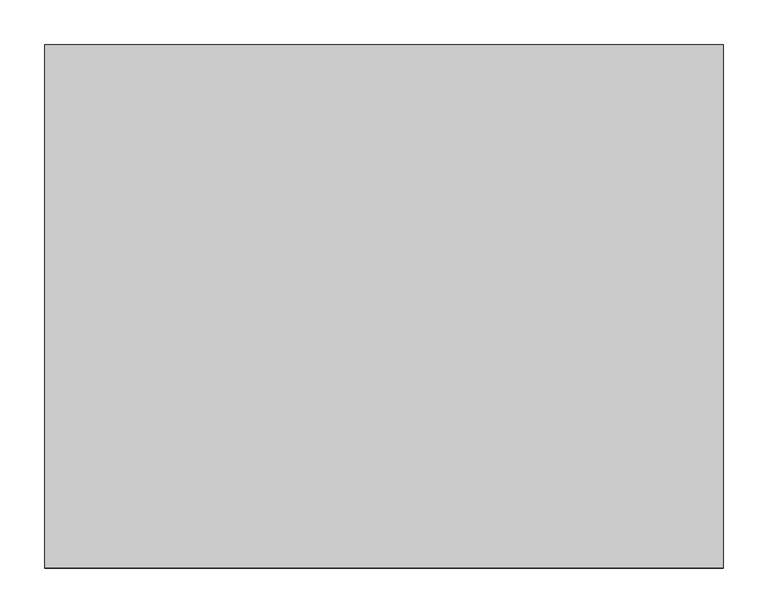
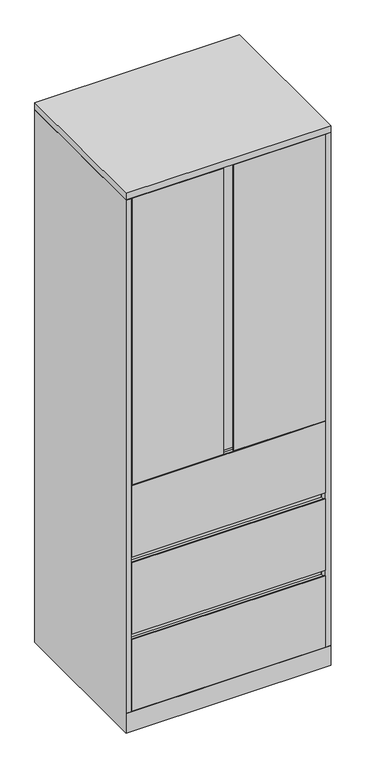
"""IFC4 building model written with IfcOpenShell, lengths in millimetres: furniture geometry, Steelcase - Universal Storage - Cabinet - Combination - Flush Steel : 83 1/2H - 3 Drawers - 23 1/8D x 30W."""

import ifcopenshell
import ifcopenshell.guid

model = None  # the IFC model being written
_history = None  # IfcOwnerHistory: only IFC2X3 demands one
_inside = {}  # id of a spatial element -> (the spatial element, [elements in it])
_under = {}  # id of a project, library or spatial element -> (it, [spatial elements below it])
_declared = {}  # id of a project -> (the project, [libraries it declares])
_typed = {}  # id of a type object -> (the type object, [elements of that type])
_made_of = {}  # id of a material, layer set ... -> (it, [elements and type objects made of it])


def new_model(schema):
    """Start an empty IFC model of exactly this schema.

    Asked for "IFC4X3", IfcOpenShell would pick the latest addendum, in which some entities
    have other attributes; the version numbers below select the first issue.
    IFC2X3 requires an IfcOwnerHistory on every rooted entity: one is made here for all.
    """
    global model, _history
    if schema == "IFC4X3":
        model = ifcopenshell.file(schema_version=(4, 3, 0, 0))
    else:
        model = ifcopenshell.file(schema=schema)
    _inside.clear()
    _under.clear()
    _declared.clear()
    _typed.clear()
    _made_of.clear()
    _history = None
    if model.schema == "IFC2X3":
        org = make("IfcOrganization", Name="unknown")
        user = make(
            "IfcPersonAndOrganization",
            ThePerson=make("IfcPerson", FamilyName="unknown"),
            TheOrganization=org,
        )
        app = make(
            "IfcApplication",
            ApplicationDeveloper=org,
            Version="unknown",
            ApplicationFullName="unknown",
            ApplicationIdentifier="unknown",
        )
        _history = make(
            "IfcOwnerHistory",
            OwningUser=user,
            OwningApplication=app,
            ChangeAction="ADDED",
            CreationDate=0,
        )
    return model


def make(cls, **values):
    """One entity of the class cls with the attributes given. An attribute that is None is left unset."""
    return model.create_entity(
        cls, **{name: value for name, value in values.items() if value is not None}
    )


def rooted(cls, **values):
    """An entity with a GlobalId (a new one), such as an element, a storey or a relation."""
    return make(cls, GlobalId=ifcopenshell.guid.new(), OwnerHistory=_history, **values)


def si_unit(unit_type, name, prefix=None):
    """IfcSIUnit, for example si_unit("LENGTHUNIT", "METRE", prefix="MILLI")."""
    return make("IfcSIUnit", UnitType=unit_type, Prefix=prefix, Name=name)


def assignment(units):
    """IfcUnitAssignment: the units of a project."""
    return None if units is None else make("IfcUnitAssignment", Units=units)


def point(xyz):
    """IfcCartesianPoint."""
    return None if xyz is None else make("IfcCartesianPoint", Coordinates=xyz)


def direction(xyz):
    """IfcDirection."""
    return None if xyz is None else make("IfcDirection", DirectionRatios=xyz)


def frame(location, z_axis=None, x_axis=None):
    """IfcAxis2Placement3D, a coordinate frame: its origin and axes. An axis left out is left unset."""
    return make(
        "IfcAxis2Placement3D",
        Location=point(location),
        Axis=direction(z_axis),
        RefDirection=direction(x_axis),
    )


def origin():
    """The frame at (0, 0, 0) with its axes left unset."""
    return frame((0.0, 0.0, 0.0))


def place(relative_to, where):
    """IfcLocalPlacement: puts the frame where relative to a parent placement (None: the world)."""
    return make(
        "IfcLocalPlacement", PlacementRelTo=relative_to, RelativePlacement=where
    )


def context(
    kind, dimensions, precision=None, world=None, true_north=None, identifier=None
):
    """IfcGeometricRepresentationContext, for example the 3D "Model" context."""
    return make(
        "IfcGeometricRepresentationContext",
        ContextIdentifier=identifier,
        ContextType=kind,
        CoordinateSpaceDimension=dimensions,
        Precision=precision,
        WorldCoordinateSystem=world,
        TrueNorth=true_north,
    )


def project(units=None, contexts=None):
    """IfcProject with its units and contexts."""
    return rooted(
        "IfcProject",
        Name="project",
        RepresentationContexts=contexts,
        UnitsInContext=assignment(units),
    )


def spatial(cls, under=None, at=None, **own):
    """A site, building, storey or space (cls), placed at a placement, below another one or the project."""
    s = rooted(cls, ObjectPlacement=at, **own)
    if under is not None:
        _under.setdefault(under.id(), (under, []))[1].append(s)
    return s


def polyline(points):
    """IfcPolyline through the points."""
    return make("IfcPolyline", Points=[point(p) for p in points])


def outline(outer, holes=None, kind="AREA"):
    """IfcArbitraryClosedProfileDef: a profile drawn as a closed curve; with holes, ...WithVoids."""
    if holes is None:
        return make("IfcArbitraryClosedProfileDef", ProfileType=kind, OuterCurve=outer)
    return make(
        "IfcArbitraryProfileDefWithVoids",
        ProfileType=kind,
        OuterCurve=outer,
        InnerCurves=holes,
    )


def extrude(swept, where, along, depth):
    """IfcExtrudedAreaSolid: the profile swept, set in the frame where, extruded along a direction by depth."""
    return make(
        "IfcExtrudedAreaSolid",
        SweptArea=swept,
        Position=where,
        ExtrudedDirection=direction(along),
        Depth=depth,
    )


def faces_of(points, faces, orient=None, outer=None):
    """IfcFace entities. A face is a list of loops; a loop is a list of indices into points, from 0.

    orient and outer hold one flag for each loop. By default every Orientation is true, the
    first loop of a face is its IfcFaceOuterBound and the others are IfcFaceBound.
    """
    made = []
    for i, loops in enumerate(faces):
        bounds = []
        for j, loop in enumerate(loops):
            is_outer = j == 0 if outer is None else outer[i][j]
            bounds.append(
                make(
                    "IfcFaceOuterBound" if is_outer else "IfcFaceBound",
                    Bound=make("IfcPolyLoop", Polygon=[points[k] for k in loop]),
                    Orientation=True if orient is None else orient[i][j],
                )
            )
        made.append(make("IfcFace", Bounds=bounds))
    return made


def faceted_brep(points, faces, orient=None, outer=None, voids=None):
    """IfcFacetedBrep: a solid bounded by flat faces; with voids (closed shells), ...WithVoids."""
    shared = [point(p) for p in points]
    hull = make("IfcClosedShell", CfsFaces=faces_of(shared, faces, orient, outer))
    if voids is None:
        return make("IfcFacetedBrep", Outer=hull)
    return make(
        "IfcFacetedBrepWithVoids",
        Outer=hull,
        Voids=[
            make(cls, CfsFaces=faces_of(shared, fs, o, b)) for cls, fs, o, b in voids
        ],
    )


def shape(context_of_items, identifier, shape_type, items):
    """IfcShapeRepresentation: the items that make up one representation, for example the "Body"."""
    return make(
        "IfcShapeRepresentation",
        ContextOfItems=context_of_items,
        RepresentationIdentifier=identifier,
        RepresentationType=shape_type,
        Items=items,
    )


def source(mapping_origin, context_of_items, identifier, shape_type, items):
    """IfcRepresentationMap: a shape defined once, which mapped items show again and again."""
    return make(
        "IfcRepresentationMap",
        MappingOrigin=mapping_origin,
        MappedRepresentation=shape(context_of_items, identifier, shape_type, items),
    )


def transform(
    local_origin,
    x_axis=None,
    y_axis=None,
    z_axis=None,
    scale=None,
    scale2=None,
    scale3=None,
    uniform=True,
):
    """IfcCartesianTransformationOperator3D, or its non-uniform kind. x_axis, y_axis, z_axis: its Axis1, 2, 3."""
    if uniform:
        return make(
            "IfcCartesianTransformationOperator3D",
            Axis1=direction(x_axis),
            Axis2=direction(y_axis),
            LocalOrigin=point(local_origin),
            Scale=scale,
            Axis3=direction(z_axis),
        )
    return make(
        "IfcCartesianTransformationOperator3DnonUniform",
        Axis1=direction(x_axis),
        Axis2=direction(y_axis),
        LocalOrigin=point(local_origin),
        Scale=scale,
        Axis3=direction(z_axis),
        Scale2=scale2,
        Scale3=scale3,
    )


def mapped(mapping_source, mapping_target):
    """IfcMappedItem: shows the shape of a source again, moved by a transform."""
    return make(
        "IfcMappedItem", MappingSource=mapping_source, MappingTarget=mapping_target
    )


def made_of(thing, what):
    """Note that an element or type object is made of a material, layer set ...; save() writes the relation."""
    if what is not None:
        _made_of.setdefault(what.id(), (what, []))[1].append(thing)
    return thing


def element(
    cls,
    number,
    at=None,
    inside=None,
    cuts=None,
    type_object=None,
    material=None,
    context=None,
    identifier="Body",
    shape_type=None,
    held_by="IfcProductDefinitionShape",
    body=None,
    shapes=None,
    **own,
):
    """One element of the class cls, such as IfcWall. Its Tag is "e" and its number.

    at: its placement. inside: the storey or other place that contains it. cuts: it is an
    opening in that element (IfcRelVoidsElement). A single representation is given by context,
    identifier, shape_type and body (its items); several are given by shapes. held_by: the class
    of the entity that holds the representations. save() writes the other relations.
    """
    e = rooted(cls, Tag="e%d" % number, ObjectPlacement=at, **own)
    if body is not None:
        shapes = [shape(context, identifier, shape_type, body)]
    if shapes is not None:
        e.Representation = make(held_by, Representations=shapes)
    if inside is not None:
        _inside.setdefault(inside.id(), (inside, []))[1].append(e)
    if cuts is not None:
        rooted(
            "IfcRelVoidsElement", RelatingBuildingElement=cuts, RelatedOpeningElement=e
        )
    if type_object is not None:
        _typed.setdefault(type_object.id(), (type_object, []))[1].append(e)
    return made_of(e, material)


def aggregate(whole, parts):
    """IfcRelAggregates: a whole, such as a stair, and the parts it consists of."""
    return rooted("IfcRelAggregates", RelatingObject=whole, RelatedObjects=parts)


def save(model, path):
    """Write the relations noted so far, then the file.

    IfcRelAggregates (storeys below a building ...), IfcRelContainedInSpatialStructure (elements
    in a storey), IfcRelDefinesByType, IfcRelAssociatesMaterial and IfcRelDeclares: one each for
    every whole, place, type object, material and project.
    """
    for whole, parts in _under.values():
        aggregate(whole, parts)
    for where, things in _inside.values():
        rooted(
            "IfcRelContainedInSpatialStructure",
            RelatedElements=things,
            RelatingStructure=where,
        )
    for kind, things in _typed.values():
        rooted("IfcRelDefinesByType", RelatedObjects=things, RelatingType=kind)
    for what, things in _made_of.values():
        rooted("IfcRelAssociatesMaterial", RelatedObjects=things, RelatingMaterial=what)
    for by, libraries in _declared.values():
        rooted("IfcRelDeclares", RelatingContext=by, RelatedDefinitions=libraries)
    model.write(path)


def furniture_314dd64d(model_context):
    return source(origin(), model_context, "Body", "SolidModel", [
        extrude(outline(polyline([(21.8068168, -561.975866), (741.172, -561.975866), (741.172, -587.502), (400.05, -587.502), (400.05, -583.185482), (413.2189152, -583.185482), (413.2189152, -568.3258781), (361.95, -568.3258781), (361.95, -587.502), (21.8068168, -587.502), (21.8068168, -561.975866)])), frame((0.0, 0.0, 968.756), z_axis=(0.0, 0.0, 1.0), x_axis=(1.0, 0.0, 0.0)), (0.0, 0.0, 1.0), 1125.22),
        extrude(outline(polyline([(762.0, 0.0), (762.0, -587.502), (0.0, -587.502), (0.0, 0.0), (762.0, 0.0)])), frame((0.0, 0.0, 2095.4999516), z_axis=(0.0, 0.0, 1.0), x_axis=(1.0, 0.0, 0.0)), (0.0, 0.0, 1.0), 25.4000484),
        extrude(outline(polyline([(736.6000242, -25.4000008), (736.6000242, -560.4518674), (25.4000008, -560.4518674), (25.4000008, -25.4000008), (736.6000242, -25.4000008)])), frame((0.0, 0.0, 1875.1550484), z_axis=(0.0, 0.0, 1.0), x_axis=(1.0, 0.0, 0.0)), (0.0, 0.0, 1.0), 22.2249516),
        extrude(outline(polyline([(736.6000242, -25.4000008), (736.6000242, -560.4518674), (25.4000008, -560.4518674), (25.4000008, -25.4000008), (736.6000242, -25.4000008)])), frame((0.0, 0.0, 1571.8790484), z_axis=(0.0, 0.0, 1.0), x_axis=(1.0, 0.0, 0.0)), (0.0, 0.0, 1.0), 22.2249516),
        extrude(outline(polyline([(-587.502, 358.7750484), (-584.3262491, 358.7750484), (-584.3262491, 349.2500484), (-561.975866, 349.2500484), (-561.975866, 381.0), (-560.4518674, 381.0), (-560.4518674, 349.2500484), (-560.4518674, 77.724), (-587.502, 77.724), (-587.502, 358.7750484)])), frame((20.8280006, 0.0, 0.0), z_axis=(1.0, 0.0, 0.0), x_axis=(0.0, 1.0, 0.0)), (0.0, 0.0, 1.0), 720.3439994),
        extrude(outline(polyline([(736.6000242, -25.4000008), (736.6000242, -560.4518674), (25.4000008, -560.4518674), (25.4000008, -25.4000008), (736.6000242, -25.4000008)])), frame((0.0, 0.0, 358.7750484), z_axis=(0.0, 0.0, 1.0), x_axis=(1.0, 0.0, 0.0)), (0.0, 0.0, 1.0), 22.2249516),
        extrude(outline(polyline([(736.6000242, -25.4000008), (736.6000242, -560.4518674), (25.4000008, -560.4518674), (25.4000008, -25.4000008), (736.6000242, -25.4000008)])), frame((0.0, 0.0, 1268.6030484), z_axis=(0.0, 0.0, 1.0), x_axis=(1.0, 0.0, 0.0)), (0.0, 0.0, 1.0), 22.2249516),
        extrude(outline(polyline([(-587.502, 965.3270484), (-584.3262491, 965.3270484), (-584.3262491, 955.8020484), (-561.975866, 955.8020484), (-561.975866, 987.552), (-560.4518674, 987.552), (-560.4518674, 955.8020484), (-560.4518674, 684.276), (-587.502, 684.276), (-587.502, 965.3270484)])), frame((20.8280006, 0.0, 0.0), z_axis=(1.0, 0.0, 0.0), x_axis=(0.0, 1.0, 0.0)), (0.0, 0.0, 1.0), 720.3439994),
        extrude(outline(polyline([(736.6000242, -25.4000008), (736.6000242, -560.4518674), (25.4000008, -560.4518674), (25.4000008, -25.4000008), (736.6000242, -25.4000008)])), frame((0.0, 0.0, 965.3270484), z_axis=(0.0, 0.0, 1.0), x_axis=(1.0, 0.0, 0.0)), (0.0, 0.0, 1.0), 22.2249516),
        extrude(outline(polyline([(-587.502, 662.0510484), (-584.3262491, 662.0510484), (-584.3262491, 652.5260484), (-561.975866, 652.5260484), (-561.975866, 684.276), (-560.4518674, 684.276), (-560.4518674, 652.5260484), (-560.4518674, 381.0), (-587.502, 381.0), (-587.502, 662.0510484)])), frame((20.8280006, 0.0, 0.0), z_axis=(1.0, 0.0, 0.0), x_axis=(0.0, 1.0, 0.0)), (0.0, 0.0, 1.0), 720.3439994),
        extrude(outline(polyline([(736.6000242, -25.4000008), (736.6000242, -560.4518674), (25.4000008, -560.4518674), (25.4000008, -25.4000008), (736.6000242, -25.4000008)])), frame((0.0, 0.0, 662.0510484), z_axis=(0.0, 0.0, 1.0), x_axis=(1.0, 0.0, 0.0)), (0.0, 0.0, 1.0), 22.2249516),
        faceted_brep([(762.0, 0.0, 0.0), (762.0, -587.502, 0.0), (0.0, -587.502, 0.0), (0.0, 0.0, 0.0), (0.0, 0.0, 2093.976), (762.0, 0.0, 2093.976), (0.0, -587.502, 76.2), (0.0, -587.502, 77.724), (0.0, -587.502, 2093.976), (762.0, -587.502, 76.2), (762.0, -587.502, 2093.976), (762.0, -587.502, 77.724), (736.6000242, -25.4000008, 2093.976), (736.6000242, -560.4518674, 2093.976), (741.172, -560.4518674, 2093.976), (741.172, -561.9758781, 2093.976), (742.696, -561.9758781, 2093.976), (742.696, -587.502, 2093.976), (19.304, -587.502, 2093.976), (19.304, -561.975866, 2093.976), (20.8280006, -561.975866, 2093.976), (20.8280006, -560.4518674, 2093.976), (25.4000008, -560.4518674, 2093.976), (25.4000008, -25.4000008, 2093.976), (19.304, -587.502, 77.724), (19.304, -568.198, 77.724), (742.696, -587.502, 77.724), (742.696, -568.0718418, 77.724), (736.6000242, -25.4000008, 77.724), (736.6000242, -560.4518674, 77.724), (741.172, -560.4518674, 77.724), (741.172, -561.9758781, 77.724), (742.696, -561.9758781, 77.724), (19.304, -561.975866, 77.724), (20.8280006, -561.975866, 77.724), (20.8280006, -560.4518674, 77.724), (25.4000008, -560.4518674, 77.724), (25.4000008, -25.4000008, 77.724), (25.526134, -561.975866, 77.724), (736.6000242, -561.975866, 77.724)], [[[0, 1, 2, 3]], [[0, 3, 4, 5]], [[4, 3, 2, 6, 7, 8]], [[2, 1, 9, 6]], [[1, 0, 5, 10, 11, 9]], [[12, 13, 14, 15, 16, 17, 10, 5, 4, 8, 18, 19, 20, 21, 22, 23]], [[24, 7, 25]], [[11, 26, 27]], [[13, 12, 28, 29]], [[14, 13, 29, 30]], [[15, 14, 30, 31]], [[16, 15, 31, 32]], [[17, 16, 32, 27, 26]], [[10, 17, 26, 11]], [[18, 8, 7, 24]], [[19, 18, 24, 25, 33]], [[20, 19, 33, 34]], [[21, 20, 34, 35]], [[22, 21, 35, 36]], [[23, 22, 36, 37]], [[12, 23, 37, 28]], [[38, 39, 27, 32, 31, 30, 29, 28, 37, 36, 35, 34, 33, 25]], [[7, 6, 38, 25]], [[39, 38, 6, 9]], [[39, 9, 11, 27]]]),
    ])


if __name__ == "__main__":
    model = new_model("IFC4")
    model_context = context("Model", 3, world=origin())
    ifc_project = project(units=[si_unit("LENGTHUNIT", "METRE", prefix="MILLI")], contexts=[model_context])
    site = spatial("IfcSite", under=ifc_project)
    building = spatial("IfcBuilding", under=site)
    placement = place(None, origin())
    furniture_shape = furniture_314dd64d(model_context)
    element("IfcFurniture", 1, ObjectType="Steelcase - Universal Storage - Cabinet - Combination - Flush Steel : 83 1/2H - 3 Drawers - 23 1/8D x 30W", at=placement, inside=building, context=model_context, shape_type="MappedRepresentation", body=[
        mapped(furniture_shape, transform((0.0, 0.0, 0.0), x_axis=(1.0, 0.0, 0.0), y_axis=(0.0, 1.0, 0.0), z_axis=(0.0, 0.0, 1.0))),
    ])
    save(model, "model.ifc")
